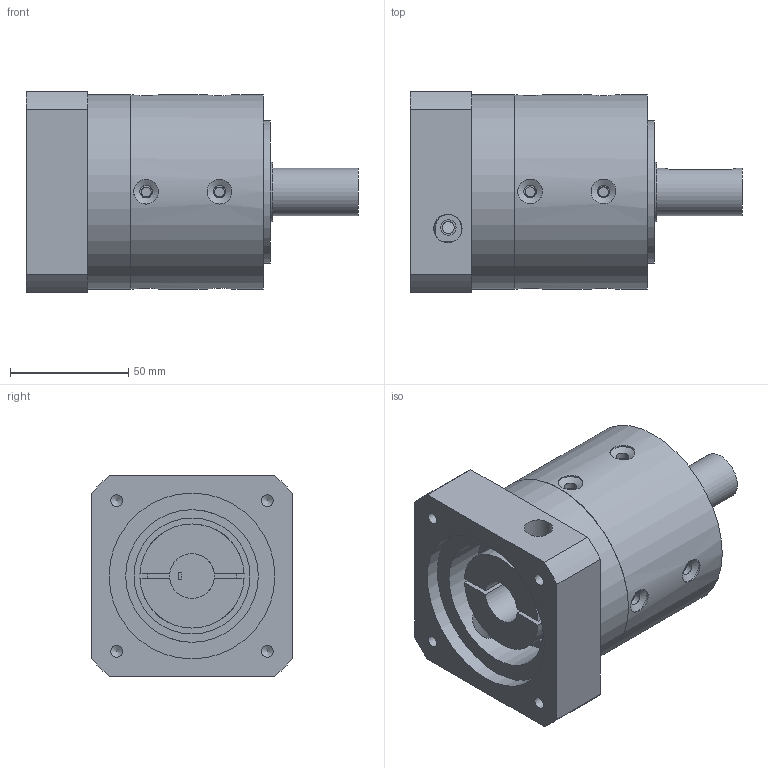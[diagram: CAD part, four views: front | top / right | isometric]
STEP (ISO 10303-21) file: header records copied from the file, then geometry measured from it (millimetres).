
FILE_DESCRIPTION(/* description */ (''),/* implementation_level */ '2;1');
FILE_NAME(/* name */ 'PLE80-L1 19-70-90-M5.stp',/* time_stamp */ '2020-09-11T18:12:56+08:00',/* author */ (''),/* organization */ (''),/* preprocessor_version */ 'ST-DEVELOPER v16.7',/* originating_system */ 'SIEMENS PLM Software NX 12.0',/* authorisation */ '');
FILE_SCHEMA (('AP203_CONFIGURATION_CONTROLLED_3D_DESIGN_OF_MECHANICAL_PARTS_AND_ASSEMBLIES_MIM_LF { 1 0 10303 403 2 1 2}'));
Length unit declared in the file: millimetre
Products named in the file (1): Admi6E8CBE73gzi4
Bounding box: 140.25 x 85 x 85 mm (x, y, z)
Volume: 520629.7 mm3; surface area: 87702.7 mm2
Topology: 2 solids, 4 shells, 152 faces, 369 edges, 251 vertices
Faces by surface type: cylinder 84, plane 47, cone 21
Full cylindrical faces by diameter (mm): 4.2 x8, 5 x10, 5.3 x8, 6.5 x2, 6.8 x1, 10.5 x8, 12 x2, 19 x1, 20 x2, 25 x1, 28 x1, 38 x1, 49 x1, 55.15 x2, 56 x1, 58 x1, 60 x1, 66.4 x2, 70 x1, 72 x3, 82 x2
Entity records: 5298 total; most frequent: CARTESIAN_POINT 2234, DIRECTION 606, ORIENTED_EDGE 446, EDGE_LOOP 288, AXIS2_PLACEMENT_3D 269, FACE_BOUND 261, EDGE_CURVE 223, VERTEX_POINT 198
